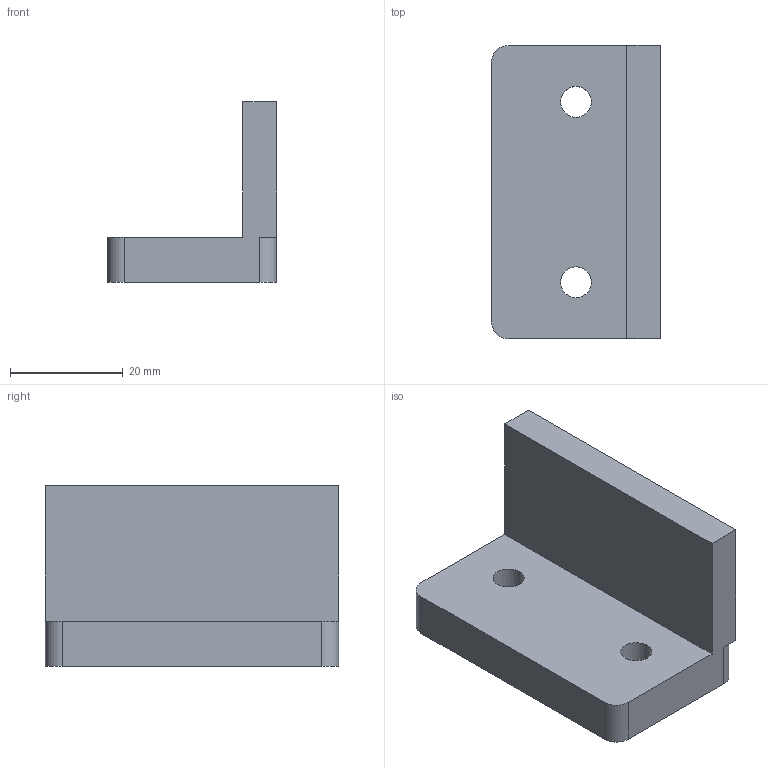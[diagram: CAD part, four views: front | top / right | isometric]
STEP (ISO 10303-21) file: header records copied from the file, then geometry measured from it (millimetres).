
FILE_DESCRIPTION(('Open CASCADE Model'),'2;1');
FILE_NAME('Open CASCADE Shape Model','2026-09-01T17:09:25',('Author'),( 'Open CASCADE'),'Open CASCADE STEP processor 7.9','Open CASCADE 7.9' ,'Unknown');
FILE_SCHEMA(('AUTOMOTIVE_DESIGN { 1 0 10303 214 1 1 1 1 }'));
Length unit declared in the file: millimetre
Products named in the file (1): Open CASCADE STEP translator 7.9 4
Bounding box: 30 x 52 x 32 mm (x, y, z)
Volume: 19526.1 mm3; surface area: 7348.5 mm2
Topology: 1 solids, 1 shells, 16 faces, 42 edges, 28 vertices
Faces by surface type: plane 10, cylinder 6
Full cylindrical faces by diameter (mm): 5.5 x2
Entity records: 1086 total; most frequent: CARTESIAN_POINT 219, DIRECTION 164, LINE 102, VECTOR 102, ORIENTED_EDGE 84, PCURVE 84, DEFINITIONAL_REPRESENTATION 84, EDGE_CURVE 42
